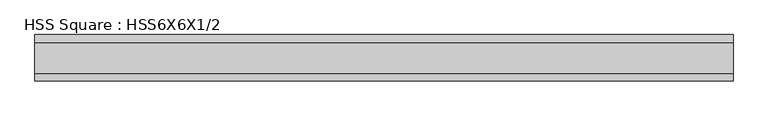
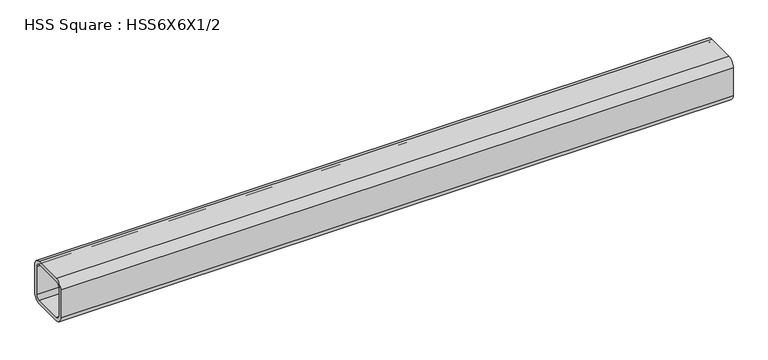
"""IFC4 building model written with IfcOpenShell, lengths in millimetres: beam geometry, HSS Square : HSS6X6X1/2."""

from ifc_helpers import new_model, si_unit, point, frame, frame_2d, origin, place, context, project, spatial, polyline, circle_curve, trimmed, segment, composite_curve, outline, extrude, source, transform, mapped, element, save


def hss_square_hss6x6x1_2_a7cad767(model_context):
    return source(origin(), model_context, "Body", "SweptSolid", [
        extrude(outline(composite_curve([segment(polyline([(76.2, 50.8), (76.2, -50.8)]), True, "CONTINUOUS"), segment(trimmed(circle_curve(frame_2d((50.8, -50.8)), 25.4), [point((76.2, -50.8))], [point((50.8, -76.2))], False, "CARTESIAN"), True, "CONTINUOUS"), segment(polyline([(50.8, -76.2), (-50.8, -76.2)]), True, "CONTINUOUS"), segment(trimmed(circle_curve(frame_2d((-50.8, -50.8)), 25.4), [point((-50.8, -76.2))], [point((-76.2, -50.8))], False, "CARTESIAN"), True, "CONTINUOUS"), segment(polyline([(-76.2, -50.8), (-76.2, 50.8)]), True, "CONTINUOUS"), segment(trimmed(circle_curve(frame_2d((-50.8, 50.8)), 25.4), [point((-76.2, 50.8))], [point((-50.8, 76.2))], False, "CARTESIAN"), True, "CONTINUOUS"), segment(polyline([(-50.8, 76.2), (50.8, 76.2)]), True, "CONTINUOUS"), segment(trimmed(circle_curve(frame_2d((50.8, 50.8)), 25.4), [point((50.8, 76.2))], [point((76.2, 50.8))], False, "CARTESIAN"), True, "CONTINUOUS")], self_intersect=False), holes=[composite_curve([segment(trimmed(circle_curve(frame_2d((-50.8, 50.8)), 12.7), [point((-50.8, 63.5))], [point((-63.5, 50.8))], True, "CARTESIAN"), True, "CONTINUOUS"), segment(polyline([(-63.5, 50.8), (-63.5, -50.8)]), True, "CONTINUOUS"), segment(trimmed(circle_curve(frame_2d((-50.8, -50.8)), 12.7), [point((-63.5, -50.8))], [point((-50.8, -63.5))], True, "CARTESIAN"), True, "CONTINUOUS"), segment(polyline([(-50.8, -63.5), (50.8, -63.5)]), True, "CONTINUOUS"), segment(trimmed(circle_curve(frame_2d((50.8, -50.8)), 12.7), [point((50.8, -63.5))], [point((63.5, -50.8))], True, "CARTESIAN"), True, "CONTINUOUS"), segment(polyline([(63.5, -50.8), (63.5, 50.8)]), True, "CONTINUOUS"), segment(trimmed(circle_curve(frame_2d((50.8, 50.8)), 12.7), [point((63.5, 50.8))], [point((50.8, 63.5))], True, "CARTESIAN"), True, "CONTINUOUS"), segment(polyline([(50.8, 63.5), (-50.8, 63.5)]), True, "CONTINUOUS")], self_intersect=False)]), frame((-1147.209885, 0.0, 0.0), z_axis=(1.0, 0.0, 0.0), x_axis=(0.0, 1.0, 0.0)), (0.0, 0.0, 1.0), 2294.41977),
    ])


if __name__ == "__main__":
    model = new_model("IFC4")
    model_context = context("Model", 3, world=origin())
    ifc_project = project(units=[si_unit("LENGTHUNIT", "METRE", prefix="MILLI")], contexts=[model_context])
    site = spatial("IfcSite", under=ifc_project)
    building = spatial("IfcBuilding", under=site)
    placement = place(None, origin())
    hss_square_hss6x6x1_2_shape = hss_square_hss6x6x1_2_a7cad767(model_context)
    element("IfcBeam", 1, ObjectType="HSS Square : HSS6X6X1/2", at=placement, inside=building, context=model_context, shape_type="MappedRepresentation", body=[
        mapped(hss_square_hss6x6x1_2_shape, transform((0.0, 0.0, 0.0), x_axis=(1.0, 0.0, 0.0), y_axis=(0.0, 1.0, 0.0), z_axis=(0.0, 0.0, 1.0))),
    ])
    save(model, "model.ifc")
